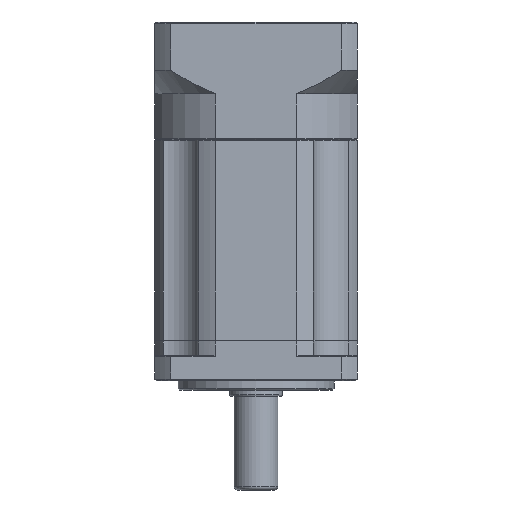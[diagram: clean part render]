
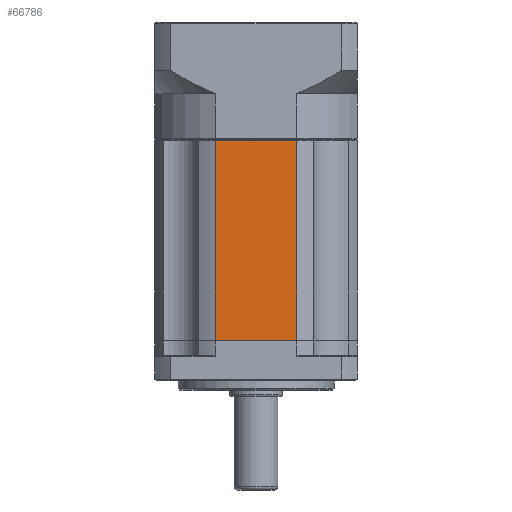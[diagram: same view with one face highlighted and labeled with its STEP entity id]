
A CAD part, front view. The second image highlights one B-rep face of the part: STEP entity #66786.
In plain terms, the highlighted planar face has unit normal (0, -1, 0).
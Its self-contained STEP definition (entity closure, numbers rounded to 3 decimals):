
#9833 = LINE ( 'NONE', #78800, #109884 ) ;
#10108 = VECTOR ( 'NONE', #76248, 1000. ) ;
#11803 = ORIENTED_EDGE ( 'NONE', *, *, #109008, .F. ) ;
#13205 = FACE_OUTER_BOUND ( 'NONE', #49176, .T. ) ;
#14056 = EDGE_CURVE ( 'NONE', #28833, #105754, #18716, .T. ) ;
#16929 = DIRECTION ( 'NONE',  ( 0., 0., 1. ) ) ;
#18716 = LINE ( 'NONE', #60690, #114167 ) ;
#21678 = DIRECTION ( 'NONE',  ( 0., 0., -1. ) ) ;
#22284 = CARTESIAN_POINT ( 'NONE',  ( -43.944, -7.96, -10.243 ) ) ;
#25715 = PLANE ( 'NONE',  #82836 ) ;
#28833 = VERTEX_POINT ( 'NONE', #71650 ) ;
#30355 = EDGE_CURVE ( 'NONE', #109760, #65249, #95241, .T. ) ;
#49176 = EDGE_LOOP ( 'NONE', ( #11803, #97535, #57949, #119885 ) ) ;
#50685 = DIRECTION ( 'NONE',  ( 1., 0., 0. ) ) ;
#57949 = ORIENTED_EDGE ( 'NONE', *, *, #85957, .T. ) ;
#60690 = CARTESIAN_POINT ( 'NONE',  ( -43.944, -7.96, -74.343 ) ) ;
#64688 = VECTOR ( 'NONE', #89028, 1000. ) ;
#65249 = VERTEX_POINT ( 'NONE', #69535 ) ;
#66653 = CARTESIAN_POINT ( 'NONE',  ( -69.924, -7.96, -10.243 ) ) ;
#66786 = ADVANCED_FACE ( 'NONE', ( #13205 ), #25715, .F. ) ;
#69535 = CARTESIAN_POINT ( 'NONE',  ( -69.924, -7.96, -10.243 ) ) ;
#71650 = CARTESIAN_POINT ( 'NONE',  ( -69.924, -7.96, -74.343 ) ) ;
#76248 = DIRECTION ( 'NONE',  ( -1., 0., 0. ) ) ;
#78800 = CARTESIAN_POINT ( 'NONE',  ( -69.924, -7.96, -10.043 ) ) ;
#82836 = AXIS2_PLACEMENT_3D ( 'NONE', #121053, #120271, #16929 ) ;
#85957 = EDGE_CURVE ( 'NONE', #65249, #28833, #9833, .T. ) ;
#88195 = CARTESIAN_POINT ( 'NONE',  ( -43.944, -7.96, -74.343 ) ) ;
#88200 = CARTESIAN_POINT ( 'NONE',  ( -43.944, -7.96, -10.043 ) ) ;
#89028 = DIRECTION ( 'NONE',  ( 0., 0., -1. ) ) ;
#90036 = LINE ( 'NONE', #88200, #64688 ) ;
#95241 = LINE ( 'NONE', #66653, #10108 ) ;
#97535 = ORIENTED_EDGE ( 'NONE', *, *, #30355, .T. ) ;
#105754 = VERTEX_POINT ( 'NONE', #88195 ) ;
#109008 = EDGE_CURVE ( 'NONE', #109760, #105754, #90036, .T. ) ;
#109760 = VERTEX_POINT ( 'NONE', #22284 ) ;
#109884 = VECTOR ( 'NONE', #21678, 1000. ) ;
#114167 = VECTOR ( 'NONE', #50685, 1000. ) ;
#119885 = ORIENTED_EDGE ( 'NONE', *, *, #14056, .T. ) ;
#120271 = DIRECTION ( 'NONE',  ( 0., 1., 0. ) ) ;
#121053 = CARTESIAN_POINT ( 'NONE',  ( -43.944, -7.96, -10.043 ) ) ;
